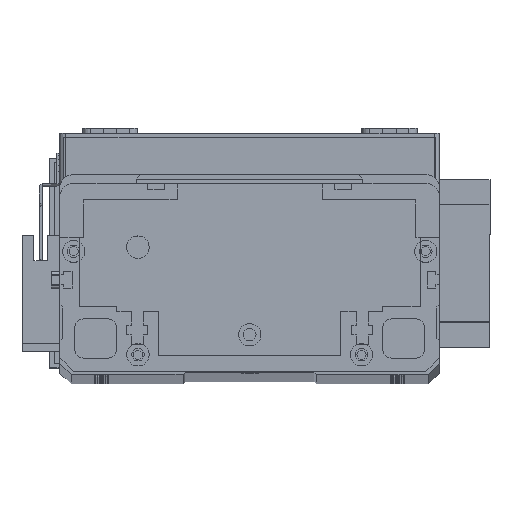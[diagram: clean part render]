
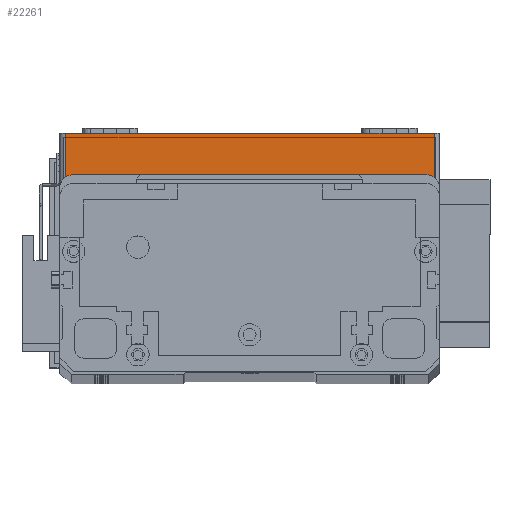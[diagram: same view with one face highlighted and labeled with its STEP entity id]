
A CAD part, top view. The second image highlights one B-rep face of the part: STEP entity #22261.
In plain terms, the highlighted planar face has unit normal (0, 0, 1) as drawn and (0, -1, 0) by its records, which use the part's own axes.
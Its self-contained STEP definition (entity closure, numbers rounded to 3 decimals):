
#309 = VERTEX_POINT ( 'NONE', #9251 ) ;
#2188 = EDGE_CURVE ( 'NONE', #22807, #309, #24486, .T. ) ;
#2675 = CARTESIAN_POINT ( 'NONE',  ( 134., 0., 19.5 ) ) ;
#3409 = EDGE_CURVE ( 'NONE', #22807, #29742, #4511, .T. ) ;
#4511 = LINE ( 'NONE', #5243, #29137 ) ;
#4695 = CARTESIAN_POINT ( 'NONE',  ( 2., 0., 19.5 ) ) ;
#5243 = CARTESIAN_POINT ( 'NONE',  ( 2., 0., 19.5 ) ) ;
#6555 = CARTESIAN_POINT ( 'NONE',  ( 0., 0., 19.5 ) ) ;
#6802 = CARTESIAN_POINT ( 'NONE',  ( 2., 0., 0. ) ) ;
#6830 = DIRECTION ( 'NONE',  ( 0., 1., 0. ) ) ;
#8810 = DIRECTION ( 'NONE',  ( 1., 0., 0. ) ) ;
#9080 = CARTESIAN_POINT ( 'NONE',  ( 0., 0., 19.5 ) ) ;
#9251 = CARTESIAN_POINT ( 'NONE',  ( 134., 0., 19.5 ) ) ;
#9356 = LINE ( 'NONE', #27298, #27056 ) ;
#9842 = CARTESIAN_POINT ( 'NONE',  ( 134., 0., 0. ) ) ;
#11927 = ORIENTED_EDGE ( 'NONE', *, *, #21632, .T. ) ;
#12414 = LINE ( 'NONE', #2675, #24667 ) ;
#15766 = DIRECTION ( 'NONE',  ( 1., 0., 0. ) ) ;
#16056 = PLANE ( 'NONE',  #22996 ) ;
#16545 = DIRECTION ( 'NONE',  ( 0., 0., 1. ) ) ;
#19048 = DIRECTION ( 'NONE',  ( 0., 0., -1. ) ) ;
#21632 = EDGE_CURVE ( 'NONE', #29742, #30019, #9356, .T. ) ;
#22261 = ADVANCED_FACE ( 'NONE', ( #27018 ), #16056, .F. ) ;
#22807 = VERTEX_POINT ( 'NONE', #4695 ) ;
#22978 = DIRECTION ( 'NONE',  ( 0., 0., 1. ) ) ;
#22996 = AXIS2_PLACEMENT_3D ( 'NONE', #9080, #6830, #22978 ) ;
#23754 = VECTOR ( 'NONE', #15766, 1000. ) ;
#24486 = LINE ( 'NONE', #6555, #23754 ) ;
#24667 = VECTOR ( 'NONE', #16545, 1000. ) ;
#25959 = EDGE_CURVE ( 'NONE', #30019, #309, #12414, .T. ) ;
#27018 = FACE_OUTER_BOUND ( 'NONE', #28433, .T. ) ;
#27056 = VECTOR ( 'NONE', #8810, 1000. ) ;
#27298 = CARTESIAN_POINT ( 'NONE',  ( 0., 0., 0. ) ) ;
#28144 = ORIENTED_EDGE ( 'NONE', *, *, #25959, .T. ) ;
#28433 = EDGE_LOOP ( 'NONE', ( #29372, #28708, #11927, #28144 ) ) ;
#28708 = ORIENTED_EDGE ( 'NONE', *, *, #3409, .T. ) ;
#29137 = VECTOR ( 'NONE', #19048, 1000. ) ;
#29372 = ORIENTED_EDGE ( 'NONE', *, *, #2188, .F. ) ;
#29742 = VERTEX_POINT ( 'NONE', #6802 ) ;
#30019 = VERTEX_POINT ( 'NONE', #9842 ) ;
